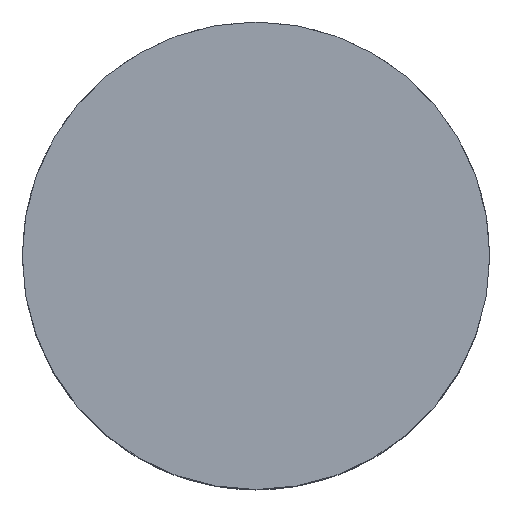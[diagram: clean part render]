
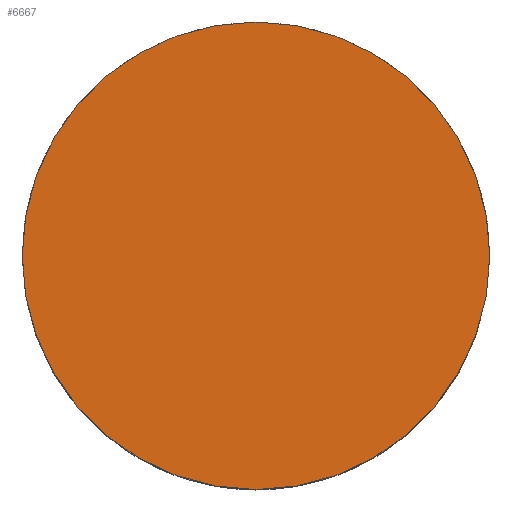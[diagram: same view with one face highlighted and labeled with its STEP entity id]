
A CAD part, top view. The second image highlights one B-rep face of the part: STEP entity #6667.
In plain terms, the highlighted planar face has unit normal (0, 0, 1).
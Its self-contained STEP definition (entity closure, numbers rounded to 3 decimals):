
#738 = VERTEX_POINT ( 'NONE', #4740 ) ;
#2607 = EDGE_CURVE ( 'NONE', #2610, #738, #9900, .T. ) ;
#2610 = VERTEX_POINT ( 'NONE', #9889 ) ;
#2763 = EDGE_CURVE ( 'NONE', #738, #2610, #10235, .T. ) ;
#4740 = CARTESIAN_POINT ( 'NONE',  ( -29.3, 0., 32.2 ) ) ;
#6667 = ADVANCED_FACE ( 'NONE', ( #11474 ), #11469, .T. ) ;
#6708 = EDGE_LOOP ( 'NONE', ( #6728, #6733 ) ) ;
#6728 = ORIENTED_EDGE ( 'NONE', *, *, #2763, .T. ) ;
#6733 = ORIENTED_EDGE ( 'NONE', *, *, #2607, .T. ) ;
#9889 = CARTESIAN_POINT ( 'NONE',  ( 29.3, 0., 32.2 ) ) ;
#9896 = DIRECTION ( 'NONE',  ( 1., 0., 0. ) ) ;
#9897 = DIRECTION ( 'NONE',  ( 0., 0., 1. ) ) ;
#9898 = CARTESIAN_POINT ( 'NONE',  ( 0., 0., 32.2 ) ) ;
#9899 = AXIS2_PLACEMENT_3D ( 'NONE', #9898, #9897, #9896 ) ;
#9900 = CIRCLE ( 'NONE', #9899, 29.3 ) ;
#10225 = DIRECTION ( 'NONE',  ( 1., 0., 0. ) ) ;
#10226 = DIRECTION ( 'NONE',  ( 0., 0., 1. ) ) ;
#10227 = CARTESIAN_POINT ( 'NONE',  ( 0., 0., 32.2 ) ) ;
#10229 = AXIS2_PLACEMENT_3D ( 'NONE', #10227, #10226, #10225 ) ;
#10235 = CIRCLE ( 'NONE', #10229, 29.3 ) ;
#11465 = DIRECTION ( 'NONE',  ( 1., 0., 0. ) ) ;
#11466 = DIRECTION ( 'NONE',  ( 0., 0., 1. ) ) ;
#11467 = CARTESIAN_POINT ( 'NONE',  ( 0., 0., 32.2 ) ) ;
#11468 = AXIS2_PLACEMENT_3D ( 'NONE', #11467, #11466, #11465 ) ;
#11469 = PLANE ( 'NONE',  #11468 ) ;
#11474 = FACE_OUTER_BOUND ( 'NONE', #6708, .T. ) ;
